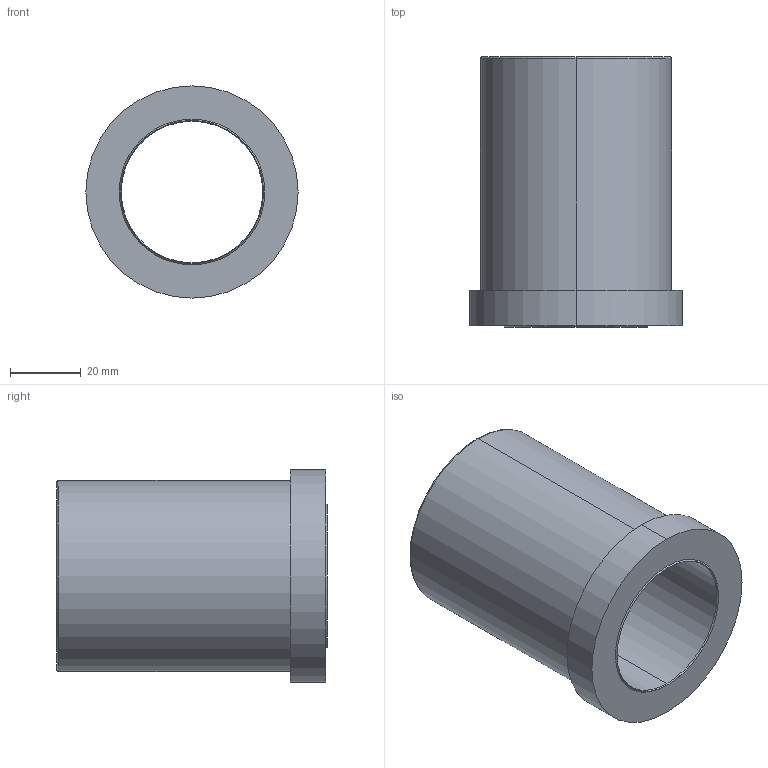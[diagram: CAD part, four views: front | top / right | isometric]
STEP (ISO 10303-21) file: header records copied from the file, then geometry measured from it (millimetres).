
FILE_DESCRIPTION (( 'STEP AP214' ), '1' );
FILE_NAME ('BR11W 40 x 76.STEP', '2020-07-16T11:30:09', ( 'August' ), ( '' ), 'SwSTEP 2.0', 'SolidWorks 2018', '' );
FILE_SCHEMA (( 'AUTOMOTIVE_DESIGN' ));
Length unit declared in the file: millimetre
Products named in the file (1): BR11W 40 x 76
Bounding box: 60 x 76.36 x 60 mm (x, y, z)
Volume: 83913.4 mm3; surface area: 25744.1 mm2
Topology: 1 solids, 1 shells, 17 faces, 34 edges, 20 vertices
Faces by surface type: cone 6, cylinder 6, plane 3, torus 2
Entity records: 484 total; most frequent: DIRECTION 92, CARTESIAN_POINT 72, ORIENTED_EDGE 68, AXIS2_PLACEMENT_3D 40, EDGE_CURVE 34, CIRCLE 22, VERTEX_POINT 20, EDGE_LOOP 20
